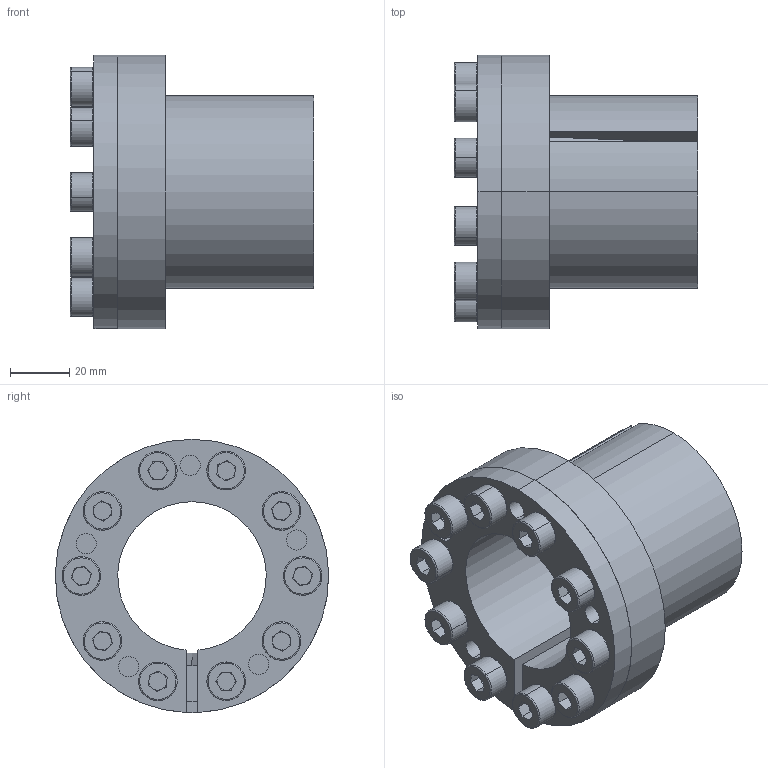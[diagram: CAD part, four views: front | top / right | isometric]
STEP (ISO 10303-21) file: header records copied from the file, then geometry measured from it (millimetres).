
FILE_DESCRIPTION (( 'STEP AP203' ), '1' );
FILE_NAME ('T-50-65.STEP', '2017-10-13T08:08:08', ( 'MYCOM' ), ( '' ), 'SwSTEP 2.0', 'SolidWorks 2015', '' );
FILE_SCHEMA (( 'CONFIG_CONTROL_DESIGN' ));
Length unit declared in the file: millimetre
Products named in the file (1): T-50-65
Bounding box: 82 x 92 x 92 mm (x, y, z)
Surface area: 81181.1 mm2 (no closed solid volume)
Topology: 0 solids, 23 shells, 274 faces, 715 edges, 456 vertices
Faces by surface type: plane 142, cylinder 87, torus 40, cone 5
Entity records: 8574 total; most frequent: DIRECTION 1623, CARTESIAN_POINT 1461, ORIENTED_EDGE 1295, EDGE_CURVE 715, AXIS2_PLACEMENT_3D 637, VERTEX_POINT 456, CIRCLE 362, LINE 349
